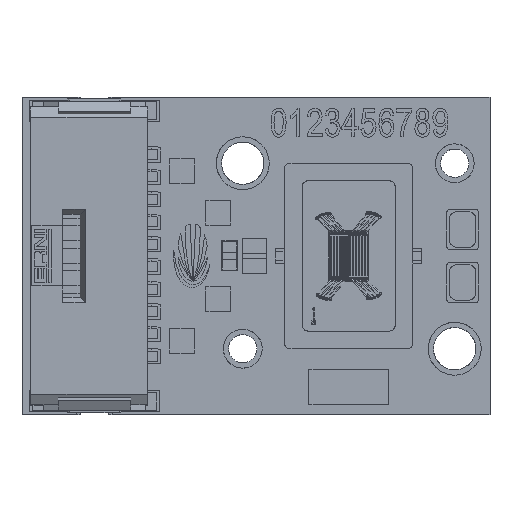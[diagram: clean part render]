
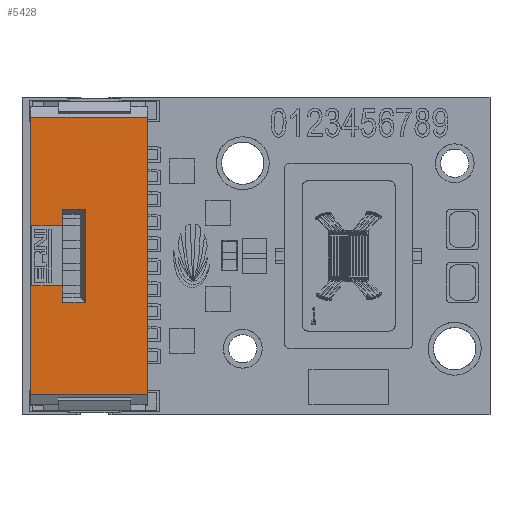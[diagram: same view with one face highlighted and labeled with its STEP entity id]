
A CAD part, top view. The second image highlights one B-rep face of the part: STEP entity #5428.
In plain terms, the highlighted planar face has unit normal (0, 0, 1).
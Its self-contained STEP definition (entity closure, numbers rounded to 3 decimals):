
#5428=ADVANCED_FACE('',(#7215,#5977),#29864,.T.);
#5977=FACE_BOUND('',#8974,.T.);
#7215=FACE_OUTER_BOUND('',#8973,.T.);
#8973=EDGE_LOOP('',(#15391,#15392,#15393,#15394));
#8974=EDGE_LOOP('',(#15395,#15396,#15397,#15398,#15399,#15400,#15401,#15402));
#15391=ORIENTED_EDGE('',*,*,#20692,.T.);
#15392=ORIENTED_EDGE('',*,*,#20693,.T.);
#15393=ORIENTED_EDGE('',*,*,#20694,.T.);
#15394=ORIENTED_EDGE('',*,*,#20695,.T.);
#15395=ORIENTED_EDGE('',*,*,#20703,.T.);
#15396=ORIENTED_EDGE('',*,*,#20696,.T.);
#15397=ORIENTED_EDGE('',*,*,#20697,.T.);
#15398=ORIENTED_EDGE('',*,*,#20698,.T.);
#15399=ORIENTED_EDGE('',*,*,#20699,.T.);
#15400=ORIENTED_EDGE('',*,*,#20700,.T.);
#15401=ORIENTED_EDGE('',*,*,#20701,.T.);
#15402=ORIENTED_EDGE('',*,*,#20702,.T.);
#20692=EDGE_CURVE('',#27869,#27870,#24890,.T.);
#20693=EDGE_CURVE('',#27870,#27871,#24891,.T.);
#20694=EDGE_CURVE('',#27871,#27872,#24892,.T.);
#20695=EDGE_CURVE('',#27872,#27869,#24893,.T.);
#20696=EDGE_CURVE('',#27873,#27874,#24894,.T.);
#20697=EDGE_CURVE('',#27874,#27875,#24895,.T.);
#20698=EDGE_CURVE('',#27875,#27876,#24896,.T.);
#20699=EDGE_CURVE('',#27876,#27877,#24897,.T.);
#20700=EDGE_CURVE('',#27877,#27878,#24898,.T.);
#20701=EDGE_CURVE('',#27878,#27879,#24899,.T.);
#20702=EDGE_CURVE('',#27879,#27880,#24900,.T.);
#20703=EDGE_CURVE('',#27880,#27873,#24901,.T.);
#24890=B_SPLINE_CURVE_WITH_KNOTS('',1,(#64097,#64098),.UNSPECIFIED.,.F.,
 .F.,(2,2),(0.,6.6),.UNSPECIFIED.);
#24891=B_SPLINE_CURVE_WITH_KNOTS('',1,(#64099,#64100),.UNSPECIFIED.,.F.,
 .F.,(2,2),(0.,15.68),.UNSPECIFIED.);
#24892=B_SPLINE_CURVE_WITH_KNOTS('',1,(#64101,#64102),.UNSPECIFIED.,.F.,
 .F.,(2,2),(0.,6.6),.UNSPECIFIED.);
#24893=B_SPLINE_CURVE_WITH_KNOTS('',1,(#64103,#64104),.UNSPECIFIED.,.F.,
 .F.,(2,2),(0.,15.68),.UNSPECIFIED.);
#24894=B_SPLINE_CURVE_WITH_KNOTS('',1,(#64105,#64106),.UNSPECIFIED.,.F.,
 .F.,(2,2),(0.,1.289),.UNSPECIFIED.);
#24895=B_SPLINE_CURVE_WITH_KNOTS('',1,(#64107,#64108),.UNSPECIFIED.,.F.,
 .F.,(2,2),(0.,0.939),.UNSPECIFIED.);
#24896=B_SPLINE_CURVE_WITH_KNOTS('',1,(#64109,#64110),.UNSPECIFIED.,.F.,
 .F.,(2,2),(0.,1.75),.UNSPECIFIED.);
#24897=B_SPLINE_CURVE_WITH_KNOTS('',1,(#64111,#64112),.UNSPECIFIED.,.F.,
 .F.,(2,2),(0.,3.4),.UNSPECIFIED.);
#24898=B_SPLINE_CURVE_WITH_KNOTS('',1,(#64113,#64114),.UNSPECIFIED.,.F.,
 .F.,(2,2),(0.,1.75),.UNSPECIFIED.);
#24899=B_SPLINE_CURVE_WITH_KNOTS('',1,(#64115,#64116),.UNSPECIFIED.,.F.,
 .F.,(2,2),(0.,0.939),.UNSPECIFIED.);
#24900=B_SPLINE_CURVE_WITH_KNOTS('',1,(#64117,#64118),.UNSPECIFIED.,.F.,
 .F.,(2,2),(0.,1.289),.UNSPECIFIED.);
#24901=B_SPLINE_CURVE_WITH_KNOTS('',1,(#64119,#64120),.UNSPECIFIED.,.F.,
 .F.,(2,2),(0.,5.277),.UNSPECIFIED.);
#27869=VERTEX_POINT('',#63341);
#27870=VERTEX_POINT('',#63342);
#27871=VERTEX_POINT('',#63343);
#27872=VERTEX_POINT('',#63344);
#27873=VERTEX_POINT('',#63345);
#27874=VERTEX_POINT('',#63346);
#27875=VERTEX_POINT('',#63347);
#27876=VERTEX_POINT('',#63348);
#27877=VERTEX_POINT('',#63349);
#27878=VERTEX_POINT('',#63350);
#27879=VERTEX_POINT('',#63351);
#27880=VERTEX_POINT('',#63352);
#29864=PLANE('',#31285);
#31285=AXIS2_PLACEMENT_3D('',#62802,#32558,$);
#32558=DIRECTION('',(0.,0.,1.));
#62802=CARTESIAN_POINT('',(-10.74,9.408,5.227));
#63341=CARTESIAN_POINT('',(-11.4,7.84,5.227));
#63342=CARTESIAN_POINT('',(-18.,7.84,5.227));
#63343=CARTESIAN_POINT('',(-18.,-7.84,5.227));
#63344=CARTESIAN_POINT('',(-11.4,-7.84,5.227));
#63345=CARTESIAN_POINT('',(-14.911,-2.639,5.227));
#63346=CARTESIAN_POINT('',(-16.2,-2.639,5.227));
#63347=CARTESIAN_POINT('',(-16.2,-1.7,5.227));
#63348=CARTESIAN_POINT('',(-17.95,-1.7,5.227));
#63349=CARTESIAN_POINT('',(-17.95,1.7,5.227));
#63350=CARTESIAN_POINT('',(-16.2,1.7,5.227));
#63351=CARTESIAN_POINT('',(-16.2,2.639,5.227));
#63352=CARTESIAN_POINT('',(-14.911,2.639,5.227));
#64097=CARTESIAN_POINT('',(-11.4,7.84,5.227));
#64098=CARTESIAN_POINT('',(-18.,7.84,5.227));
#64099=CARTESIAN_POINT('',(-18.,7.84,5.227));
#64100=CARTESIAN_POINT('',(-18.,-7.84,5.227));
#64101=CARTESIAN_POINT('',(-18.,-7.84,5.227));
#64102=CARTESIAN_POINT('',(-11.4,-7.84,5.227));
#64103=CARTESIAN_POINT('',(-11.4,-7.84,5.227));
#64104=CARTESIAN_POINT('',(-11.4,7.84,5.227));
#64105=CARTESIAN_POINT('',(-14.911,-2.639,5.227));
#64106=CARTESIAN_POINT('',(-16.2,-2.639,5.227));
#64107=CARTESIAN_POINT('',(-16.2,-2.639,5.227));
#64108=CARTESIAN_POINT('',(-16.2,-1.7,5.227));
#64109=CARTESIAN_POINT('',(-16.2,-1.7,5.227));
#64110=CARTESIAN_POINT('',(-17.95,-1.7,5.227));
#64111=CARTESIAN_POINT('',(-17.95,-1.7,5.227));
#64112=CARTESIAN_POINT('',(-17.95,1.7,5.227));
#64113=CARTESIAN_POINT('',(-17.95,1.7,5.227));
#64114=CARTESIAN_POINT('',(-16.2,1.7,5.227));
#64115=CARTESIAN_POINT('',(-16.2,1.7,5.227));
#64116=CARTESIAN_POINT('',(-16.2,2.639,5.227));
#64117=CARTESIAN_POINT('',(-16.2,2.639,5.227));
#64118=CARTESIAN_POINT('',(-14.911,2.639,5.227));
#64119=CARTESIAN_POINT('',(-14.911,2.639,5.227));
#64120=CARTESIAN_POINT('',(-14.911,-2.639,5.227));
